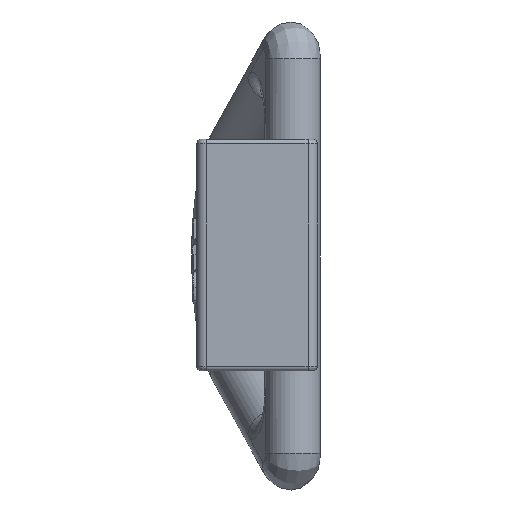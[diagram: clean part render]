
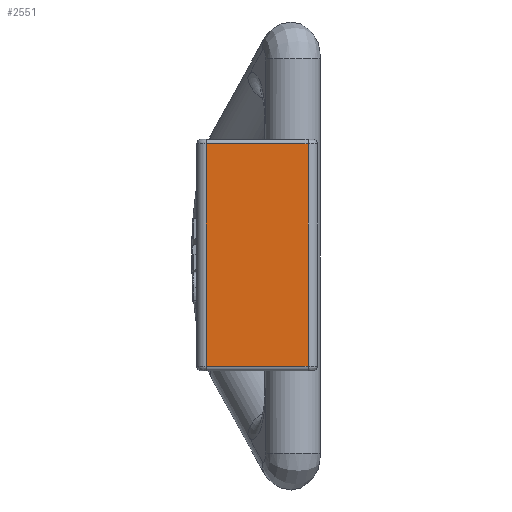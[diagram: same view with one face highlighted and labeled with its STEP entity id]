
A CAD part, left-side view. The second image highlights one B-rep face of the part: STEP entity #2551.
In plain terms, the highlighted planar face has unit normal (-1, 0, 0).
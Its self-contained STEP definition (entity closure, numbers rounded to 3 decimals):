
#148=PLANE('',#2766);
#198=LINE('',#3787,#390);
#207=LINE('',#3816,#399);
#208=LINE('',#3820,#400);
#209=LINE('',#3821,#401);
#390=VECTOR('',#3040,10.);
#399=VECTOR('',#3063,10.);
#400=VECTOR('',#3068,10.);
#401=VECTOR('',#3069,10.);
#637=FACE_OUTER_BOUND('',#797,.T.);
#797=EDGE_LOOP('',(#1772,#1773,#1774,#1775));
#1102=VERTEX_POINT('',#3760);
#1107=VERTEX_POINT('',#3778);
#1122=VERTEX_POINT('',#3815);
#1123=VERTEX_POINT('',#3819);
#1355=EDGE_CURVE('',#1107,#1102,#198,.T.);
#1369=EDGE_CURVE('',#1102,#1122,#207,.T.);
#1371=EDGE_CURVE('',#1123,#1107,#208,.T.);
#1372=EDGE_CURVE('',#1122,#1123,#209,.T.);
#1772=ORIENTED_EDGE('',*,*,#1355,.F.);
#1773=ORIENTED_EDGE('',*,*,#1371,.F.);
#1774=ORIENTED_EDGE('',*,*,#1372,.F.);
#1775=ORIENTED_EDGE('',*,*,#1369,.F.);
#2551=ADVANCED_FACE('',(#637),#148,.T.);
#2766=AXIS2_PLACEMENT_3D('',#3818,#3066,#3067);
#3040=DIRECTION('',(0.,0.,1.));
#3063=DIRECTION('',(0.,-1.,0.));
#3066=DIRECTION('center_axis',(-1.,0.,0.));
#3067=DIRECTION('ref_axis',(0.,-1.,0.));
#3068=DIRECTION('',(0.,1.,0.));
#3069=DIRECTION('',(0.,0.,-1.));
#3760=CARTESIAN_POINT('',(-10.,24.,24.));
#3778=CARTESIAN_POINT('',(-10.,24.,-24.));
#3787=CARTESIAN_POINT('',(-10.,24.,0.));
#3815=CARTESIAN_POINT('',(-10.,2.,24.));
#3816=CARTESIAN_POINT('',(-10.,19.525,24.));
#3818=CARTESIAN_POINT('Origin',(-10.,26.,0.));
#3819=CARTESIAN_POINT('',(-10.,2.,-24.));
#3820=CARTESIAN_POINT('',(-10.,19.525,-24.));
#3821=CARTESIAN_POINT('',(-10.,2.,0.));
